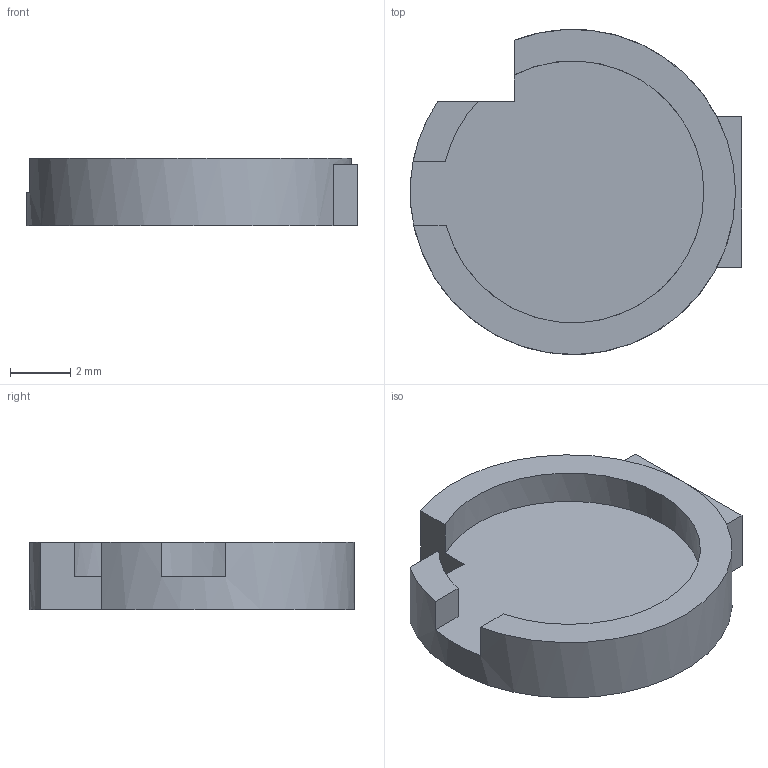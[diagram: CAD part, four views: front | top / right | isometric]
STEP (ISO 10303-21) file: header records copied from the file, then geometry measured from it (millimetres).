
FILE_DESCRIPTION(('FreeCAD Model'),'2;1');
FILE_NAME('Open CASCADE Shape Model','2026-09-23T14:25:23',('FreeCAD'),( 'FreeCAD'),'Open CASCADE STEP processor 7.8','FreeCAD','Unknown');
FILE_SCHEMA(('AUTOMOTIVE_DESIGN { 1 0 10303 214 1 1 1 1 }'));
Length unit declared in the file: millimetre
Products named in the file (1): Open CASCADE STEP translator 7.8 5
Bounding box: 10.99 x 10.79 x 2.25 mm (x, y, z)
Volume: 126.9 mm3; surface area: 289.4 mm2
Topology: 1 solids, 1 shells, 17 faces, 51 edges, 36 vertices
Faces by surface type: plane 13, cylinder 4
Entity records: 603 total; most frequent: DIRECTION 107, CARTESIAN_POINT 105, ORIENTED_EDGE 102, EDGE_CURVE 51, AXIS2_PLACEMENT_3D 38, VERTEX_POINT 36, LINE 31, VECTOR 31
